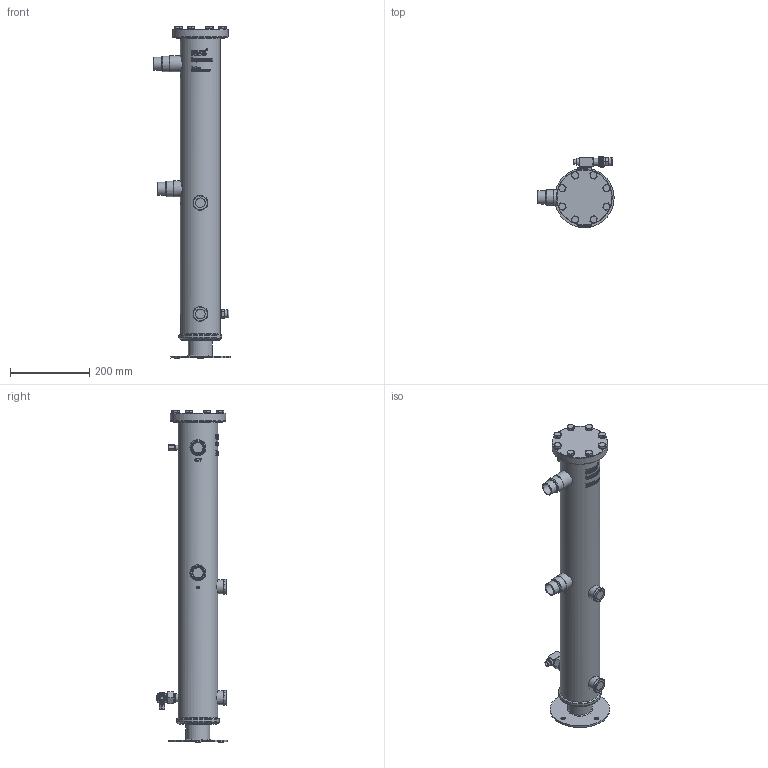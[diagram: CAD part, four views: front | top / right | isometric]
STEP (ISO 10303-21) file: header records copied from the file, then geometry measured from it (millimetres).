
FILE_DESCRIPTION(/* description */ (''),/* implementation_level */ '2;1');
FILE_NAME(/* name */ 'P:\OSR\BOS2-R-35_28F\BOS2-R-35_28F.stp',/* time_stamp */ '2017-10-05T08:59:46+02:00',/* author */ ('neufeld'),/* organization */ (''),/* preprocessor_version */ 'ST-DEVELOPER v16.1',/* originating_system */ 'Autodesk Inventor 2016',/* authorisation */ '');
FILE_SCHEMA (('AUTOMOTIVE_DESIGN { 1 0 10303 214 3 1 1 }'));
Products named in the file (3): BOS2-R-35_28F_1; BOS2-R-35_28F_2; BOS2-R-35_28F
Assembly tree (2 placements, depth 2):
  BOS2-R-35_28F
    BOS2-R-35_28F_1
    BOS2-R-35_28F_2
Bounding box: 192 x 179.8 x 836.2 mm (x, y, z)
Volume: 6742766.1 mm3; surface area: 375773.7 mm2
Topology: 2 solids, 5 shells, 1999 faces, 5313 edges, 3517 vertices
Faces by surface type: plane 964, bspline 559, cylinder 320, cone 141, torus 15
Full cylindrical faces by diameter (mm): 4 x1, 5 x1, 6.5 x1, 8.9 x1, 9 x1, 9.188 x8, 9.4 x1, 9.5 x1, 10 x16, 10.1 x1, 10.2 x1, 10.5 x8, 10.72 x1, 11 x5, 11.1 x1, 12 x1, 13 x1, 13.3 x1, 13.5 x1, 14 x1, 14.2 x1, 15.4 x8, 15.75 x1, 15.87 x1, 16.7 x1, 16.8 x1, 17.3 x1, 18 x1, 18.3 x1, 19 x1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
Entity records: 72682 total; most frequent: CARTESIAN_POINT 27188, ORIENTED_EDGE 10170, DIRECTION 8001, EDGE_CURVE 5073, VERTEX_POINT 3447, AXIS2_PLACEMENT_3D 2896, EDGE_LOOP 2388, LINE 2209
